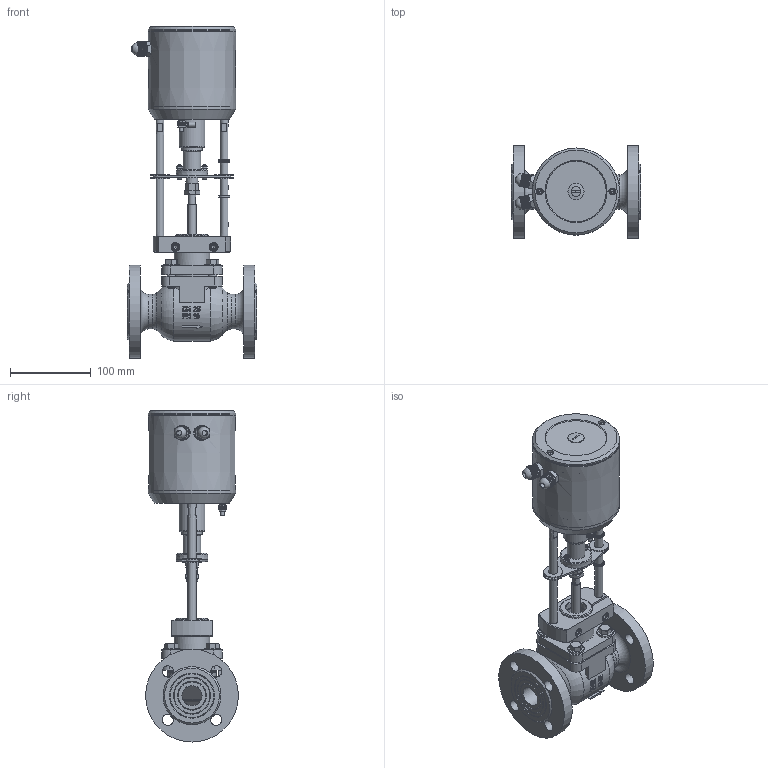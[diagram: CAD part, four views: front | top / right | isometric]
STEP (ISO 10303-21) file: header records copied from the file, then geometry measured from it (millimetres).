
FILE_DESCRIPTION(('STEP AP203'), '1');
FILE_NAME('ÊÏÑ-2 Äó 25 ñ ÝÏ-100-01', '', ('UNSPECIFIED'), ('UNSPECIFIED'), 'ASCON STEP Converter 1.3', 'ASCON Math Kernel', '');
FILE_SCHEMA(('CONFIG_CONTROL_DESIGN'));
Length unit declared in the file: millimetre
Bounding box: 160 x 115 x 411.68 mm (x, y, z)
Volume: 1144046.9 mm3; surface area: 348912.3 mm2
Topology: 21 solids, 25 shells, 2071 faces, 5456 edges, 3570 vertices
Faces by surface type: cylinder 986, plane 800, cone 197, torus 42, bspline 36, sphere 5, revolution 4, extrusion 1
Full cylindrical faces by diameter (mm): 1.7 x2, 2 x2, 2.8 x2, 3.3 x2, 3.341 x3, 3.5 x4, 3.8 x2, 4 x6, 4.2 x2, 4.8 x2, 4.999 x6, 5 x14, 5.199 x3, 5.3 x3, 5.4 x3, 5.999 x3, 6 x6, 6.2 x2, 6.647 x2, 6.793 x2, 7 x4, 7.5 x1, 8 x3, 8.2 x2, 8.4 x2, 8.5 x2, 9.2 x4, 9.5 x1, 9.6 x2, 9.981 x1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
Entity records: 109317 total; most frequent: CARTESIAN_POINT 43759, ORIENTED_EDGE 10016, DIRECTION 9690, EDGE_CURVE 5008, AXIS2_PLACEMENT_3D 3838, VERTEX_POINT 3561, EDGE_LOOP 2756, FACE_BOUND 2101
